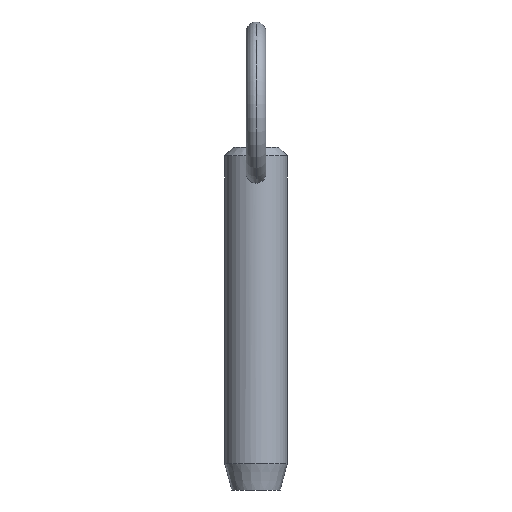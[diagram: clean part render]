
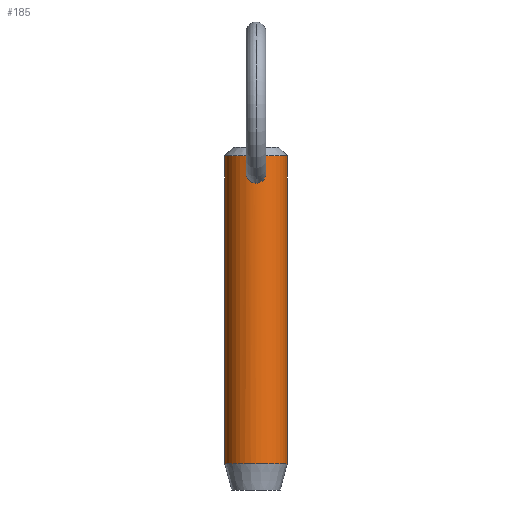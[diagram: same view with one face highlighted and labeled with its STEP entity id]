
A CAD part, front view. The second image highlights one B-rep face of the part: STEP entity #185.
In plain terms, the highlighted cylindrical face has radius 4.76 mm (diameter 9.52 mm), a partial arc.
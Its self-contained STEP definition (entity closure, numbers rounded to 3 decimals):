
#4 = CARTESIAN_POINT ( 'NONE',  ( -0.208, -4.757, 37.234 ) ) ;
#6 = VECTOR ( 'NONE', #314, 1000. ) ;
#9 = DIRECTION ( 'NONE',  ( 0., 0., 1. ) ) ;
#15 = DIRECTION ( 'NONE',  ( 0., 0., -1. ) ) ;
#21 = CARTESIAN_POINT ( 'NONE',  ( 0.104, -4.76, 37.248 ) ) ;
#30 = CARTESIAN_POINT ( 'NONE',  ( -4.76, 0., 38.05 ) ) ;
#34 = EDGE_CURVE ( 'NONE', #524, #464, #369, .T. ) ;
#35 = CARTESIAN_POINT ( 'NONE',  ( 1.19, -4.611, 36.524 ) ) ;
#37 = CARTESIAN_POINT ( 'NONE',  ( 0.409, -4.743, 37.178 ) ) ;
#50 = CIRCLE ( 'NONE', #305, 4.76 ) ;
#57 = EDGE_CURVE ( 'NONE', #132, #232, #50, .T. ) ;
#58 = CARTESIAN_POINT ( 'NONE',  ( 0., 0., 33. ) ) ;
#64 = FACE_OUTER_BOUND ( 'NONE', #251, .T. ) ;
#65 = CARTESIAN_POINT ( 'NONE',  ( 4.76, 0., -8.7 ) ) ;
#72 = CARTESIAN_POINT ( 'NONE',  ( 0.687, -4.711, 37.035 ) ) ;
#74 = CARTESIAN_POINT ( 'NONE',  ( 0., -4.76, 33.926 ) ) ;
#85 = CARTESIAN_POINT ( 'NONE',  ( -0.409, -4.743, 37.178 ) ) ;
#86 = ORIENTED_EDGE ( 'NONE', *, *, #412, .T. ) ;
#88 = CARTESIAN_POINT ( 'NONE',  ( -0.21, -4.76, 33.926 ) ) ;
#103 = CARTESIAN_POINT ( 'NONE',  ( 1.344, -4.567, 34.739 ) ) ;
#107 = CARTESIAN_POINT ( 'NONE',  ( 0.97, -4.662, 34.25 ) ) ;
#109 = CARTESIAN_POINT ( 'NONE',  ( 1.503, -4.517, 35.44 ) ) ;
#111 = CARTESIAN_POINT ( 'NONE',  ( 0., -4.76, 37.248 ) ) ;
#115 = AXIS2_PLACEMENT_3D ( 'NONE', #58, #15, #134 ) ;
#119 = CARTESIAN_POINT ( 'NONE',  ( -1.487, -4.522, 35.753 ) ) ;
#122 = CARTESIAN_POINT ( 'NONE',  ( 0., -4.76, 33.926 ) ) ;
#124 = CARTESIAN_POINT ( 'NONE',  ( -1.508, -4.515, 35.337 ) ) ;
#126 = CARTESIAN_POINT ( 'NONE',  ( -0.703, -4.709, 34.089 ) ) ;
#132 = VERTEX_POINT ( 'NONE', #166 ) ;
#134 = DIRECTION ( 'NONE',  ( -1., 0., 0. ) ) ;
#147 = CARTESIAN_POINT ( 'NONE',  ( 1.24, -4.596, 34.56 ) ) ;
#149 = CARTESIAN_POINT ( 'NONE',  ( 0.209, -4.756, 37.234 ) ) ;
#151 = CARTESIAN_POINT ( 'NONE',  ( 0.77, -4.698, 36.975 ) ) ;
#155 = CARTESIAN_POINT ( 'NONE',  ( 0.105, -4.76, 33.926 ) ) ;
#166 = CARTESIAN_POINT ( 'NONE',  ( -4.76, 0., -8.7 ) ) ;
#167 = CARTESIAN_POINT ( 'NONE',  ( 4.76, 0., 38.05 ) ) ;
#170 = CARTESIAN_POINT ( 'NONE',  ( -1.292, -4.582, 36.345 ) ) ;
#171 = CARTESIAN_POINT ( 'NONE',  ( -0.103, -4.76, 37.248 ) ) ;
#174 = CARTESIAN_POINT ( 'NONE',  ( -0.932, -4.67, 36.845 ) ) ;
#185 = ADVANCED_FACE ( 'NONE', ( #64, #264 ), #345, .T. ) ;
#197 = CARTESIAN_POINT ( 'NONE',  ( 1.404, -4.548, 36.053 ) ) ;
#206 = DIRECTION ( 'NONE',  ( 0., 0., -1. ) ) ;
#207 = CARTESIAN_POINT ( 'NONE',  ( -0.793, -4.694, 34.139 ) ) ;
#212 = ORIENTED_EDGE ( 'NONE', *, *, #292, .T. ) ;
#213 = CARTESIAN_POINT ( 'NONE',  ( -1.483, -4.524, 35.126 ) ) ;
#216 = DIRECTION ( 'NONE',  ( -1., 0., 0. ) ) ;
#232 = VERTEX_POINT ( 'NONE', #65 ) ;
#236 = CARTESIAN_POINT ( 'NONE',  ( 1.434, -4.539, 35.954 ) ) ;
#237 = CARTESIAN_POINT ( 'NONE',  ( 0., 0., 38.05 ) ) ;
#245 = LINE ( 'NONE', #506, #6 ) ;
#246 = VECTOR ( 'NONE', #206, 1000. ) ;
#250 = ORIENTED_EDGE ( 'NONE', *, *, #351, .T. ) ;
#251 = EDGE_LOOP ( 'NONE', ( #258, #250, #86, #257 ) ) ;
#253 = CARTESIAN_POINT ( 'NONE',  ( -0.504, -4.734, 37.138 ) ) ;
#257 = ORIENTED_EDGE ( 'NONE', *, *, #57, .T. ) ;
#258 = ORIENTED_EDGE ( 'NONE', *, *, #273, .F. ) ;
#264 = FACE_BOUND ( 'NONE', #481, .T. ) ;
#272 = CARTESIAN_POINT ( 'NONE',  ( 1.178, -4.613, 34.476 ) ) ;
#273 = EDGE_CURVE ( 'NONE', #525, #232, #245, .T. ) ;
#274 = CARTESIAN_POINT ( 'NONE',  ( 1.45, -4.534, 35.028 ) ) ;
#289 = CARTESIAN_POINT ( 'NONE',  ( 0., -4.76, 37.248 ) ) ;
#291 = CARTESIAN_POINT ( 'NONE',  ( 0., 0., -8.7 ) ) ;
#292 = EDGE_CURVE ( 'NONE', #464, #524, #517, .T. ) ;
#305 = AXIS2_PLACEMENT_3D ( 'NONE', #291, #9, #216 ) ;
#314 = DIRECTION ( 'NONE',  ( 0., 0., -1. ) ) ;
#317 = CARTESIAN_POINT ( 'NONE',  ( 0.208, -4.757, 33.936 ) ) ;
#318 = CARTESIAN_POINT ( 'NONE',  ( 0.506, -4.734, 37.137 ) ) ;
#322 = CARTESIAN_POINT ( 'NONE',  ( 0.797, -4.697, 34.129 ) ) ;
#331 = CARTESIAN_POINT ( 'NONE',  ( -0.416, -4.746, 33.967 ) ) ;
#345 = CYLINDRICAL_SURFACE ( 'NONE', #115, 4.76 ) ;
#347 = VERTEX_POINT ( 'NONE', #30 ) ;
#351 = EDGE_CURVE ( 'NONE', #525, #347, #499, .T. ) ;
#354 = CARTESIAN_POINT ( 'NONE',  ( 1.385, -4.554, 34.832 ) ) ;
#356 = CARTESIAN_POINT ( 'NONE',  ( 0.411, -4.743, 33.977 ) ) ;
#360 = CARTESIAN_POINT ( 'NONE',  ( 1.293, -4.582, 36.342 ) ) ;
#361 = ORIENTED_EDGE ( 'NONE', *, *, #34, .T. ) ;
#363 = CARTESIAN_POINT ( 'NONE',  ( 1.499, -4.518, 35.337 ) ) ;
#369 = B_SPLINE_CURVE_WITH_KNOTS ( 'NONE', 3,
 ( #122, #88, #331, #126, #207, #489, #378, #494, #452, #213, #124, #119, #493, #170, #379, #174, #420, #253, #85, #4, #171, #289 ),
 .UNSPECIFIED., .F., .F.,
 ( 4, 2, 2, 2, 2, 2, 2, 2, 2, 2, 4 ),
 ( 0.009, 0.01, 0.01, 0.011, 0.011, 0.012, 0.012, 0.013, 0.014, 0.014, 0.014 ),
 .UNSPECIFIED. ) ;
#377 = LINE ( 'NONE', #411, #246 ) ;
#378 = CARTESIAN_POINT ( 'NONE',  ( -1.039, -4.646, 34.326 ) ) ;
#379 = CARTESIAN_POINT ( 'NONE',  ( -1.19, -4.611, 36.524 ) ) ;
#396 = CARTESIAN_POINT ( 'NONE',  ( 0., -4.76, 37.248 ) ) ;
#402 = CARTESIAN_POINT ( 'NONE',  ( 1.473, -4.526, 35.131 ) ) ;
#411 = CARTESIAN_POINT ( 'NONE',  ( -4.76, 0., 33. ) ) ;
#412 = EDGE_CURVE ( 'NONE', #347, #132, #377, .T. ) ;
#420 = CARTESIAN_POINT ( 'NONE',  ( -0.777, -4.7, 36.985 ) ) ;
#435 = CARTESIAN_POINT ( 'NONE',  ( 0.512, -4.733, 34.008 ) ) ;
#437 = CARTESIAN_POINT ( 'NONE',  ( 1.478, -4.525, 35.752 ) ) ;
#440 = CARTESIAN_POINT ( 'NONE',  ( 1.492, -4.52, 35.648 ) ) ;
#445 = CARTESIAN_POINT ( 'NONE',  ( 0., -4.76, 33.926 ) ) ;
#452 = CARTESIAN_POINT ( 'NONE',  ( -1.353, -4.564, 34.735 ) ) ;
#464 = VERTEX_POINT ( 'NONE', #111 ) ;
#480 = CARTESIAN_POINT ( 'NONE',  ( 0.925, -4.67, 36.839 ) ) ;
#481 = EDGE_LOOP ( 'NONE', ( #212, #361 ) ) ;
#483 = CARTESIAN_POINT ( 'NONE',  ( 0.997, -4.655, 36.764 ) ) ;
#489 = CARTESIAN_POINT ( 'NONE',  ( -0.961, -4.663, 34.257 ) ) ;
#492 = AXIS2_PLACEMENT_3D ( 'NONE', #237, #515, #521 ) ;
#493 = CARTESIAN_POINT ( 'NONE',  ( -1.441, -4.537, 35.957 ) ) ;
#494 = CARTESIAN_POINT ( 'NONE',  ( -1.247, -4.596, 34.552 ) ) ;
#499 = CIRCLE ( 'NONE', #492, 4.76 ) ;
#506 = CARTESIAN_POINT ( 'NONE',  ( 4.76, 0., 33. ) ) ;
#515 = DIRECTION ( 'NONE',  ( 0., 0., -1. ) ) ;
#517 = B_SPLINE_CURVE_WITH_KNOTS ( 'NONE', 3,
 ( #396, #21, #149, #37, #318, #72, #151, #480, #483, #35, #360, #197, #236, #437, #440, #109, #363, #402, #274, #354, #103, #147, #272, #107, #322, #435, #356, #317, #155, #74 ),
 .UNSPECIFIED., .F., .F.,
 ( 4, 2, 2, 2, 2, 2, 2, 2, 2, 2, 2, 2, 2, 2, 4 ),
 ( 0.004, 0.005, 0.005, 0.005, 0.006, 0.006, 0.007, 0.007, 0.007, 0.007, 0.008, 0.008, 0.009, 0.009, 0.009 ),
 .UNSPECIFIED. ) ;
#521 = DIRECTION ( 'NONE',  ( 1., 0., 0. ) ) ;
#524 = VERTEX_POINT ( 'NONE', #445 ) ;
#525 = VERTEX_POINT ( 'NONE', #167 ) ;
